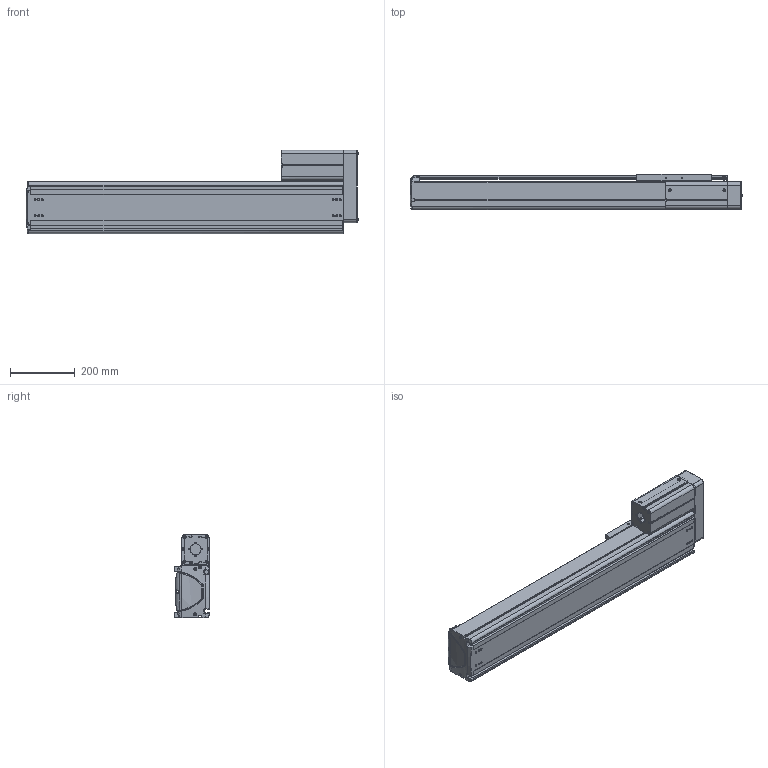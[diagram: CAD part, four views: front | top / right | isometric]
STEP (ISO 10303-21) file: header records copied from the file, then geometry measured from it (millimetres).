
FILE_DESCRIPTION((''),'2;1');
FILE_NAME('BE50F-UR-L_B-65_IGS_PRT','2017-06-18T',(' '),(''),'PRO/ENGINEER BY PARAMETRIC TECHNOLOGY CORPORATION, 2015030','PRO/ENGINEER BY PARAMETRIC TECHNOLOGY CORPORATION, 2015030','');
FILE_SCHEMA(('CONFIG_CONTROL_DESIGN'));
Length unit declared in the file: millimetre
Products named in the file (1): BE50F-UR-L_B-65_IGS_PRT
Bounding box: 1025.88 x 110 x 257 mm (x, y, z)
Volume: 5108730.3 mm3; surface area: 1868325.5 mm2
Topology: 2 solids, 125 shells, 2209 faces, 6021 edges, 3925 vertices
Faces by surface type: plane 1010, cylinder 931, cone 129, torus 59, bspline 48, sphere 32
Entity records: 73177 total; most frequent: CARTESIAN_POINT 16724, DIRECTION 11826, ORIENTED_EDGE 11480, EDGE_CURVE 5972, AXIS2_PLACEMENT_3D 4214, VERTEX_POINT 3920, VECTOR 3398, LINE 3398
